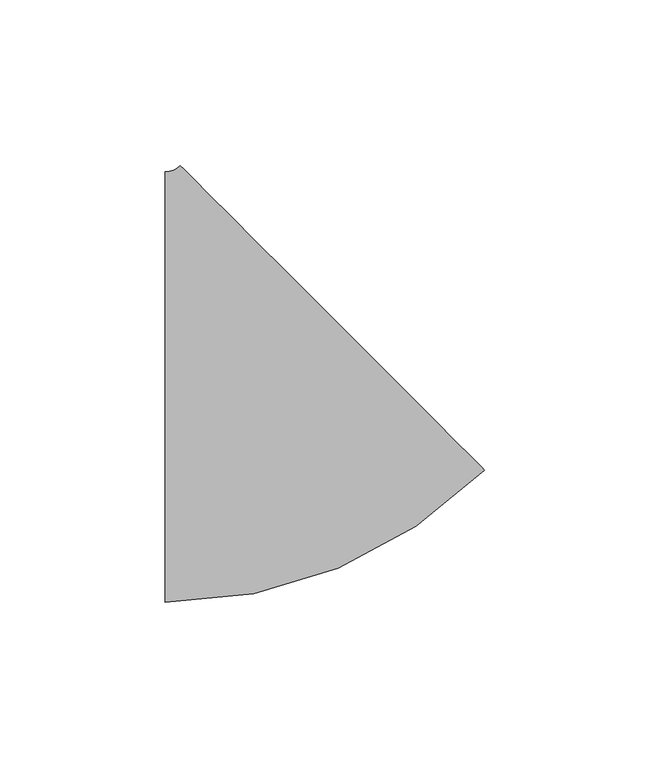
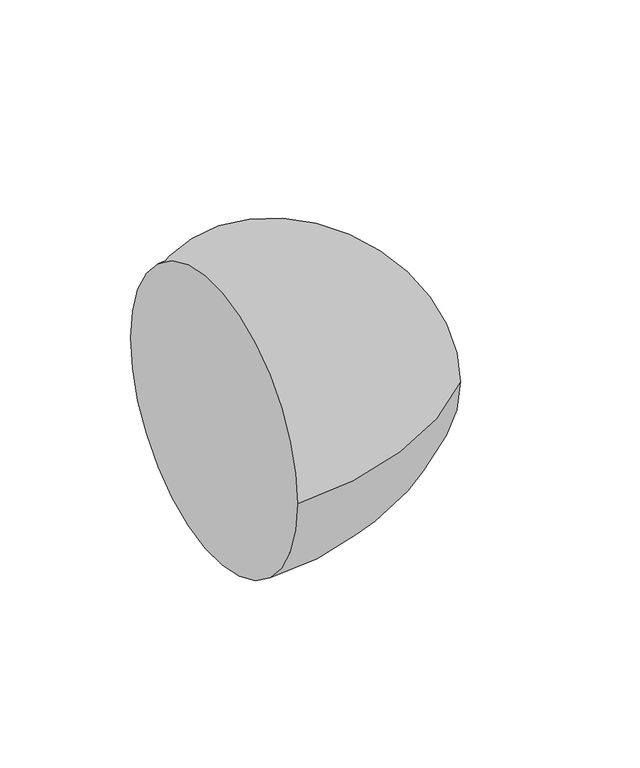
"""IFC4 building model written with IfcOpenShell, lengths in millimetres: pipe fitting geometry, M_Codo - Genérico : Estándar."""

from ifc_helpers import new_model, si_unit, point, frame, origin, place, context, project, spatial, circle_curve, ellipse_curve, trimmed, source, transform, mapped, element, save
from ifc_brep_helpers import plane_surface, revolved_surface, advanced_brep


def pipe_fitting_d5be42eb(model_context):
    return source(origin(), model_context, "Body", "AdvancedBrep", [
        advanced_brep(
        [(-29.5896926, -65.0875, 0.0), (-29.5896926, 65.0875, 0.0), (66.9464718, -25.1018421, 0.0), (-25.0996385, 66.947298, 0.0)],
        [
            (0, 1, circle_curve(frame((-29.5896926, 0.0, 0.0), z_axis=(-1.0, 0.0, 0.0), x_axis=(0.0, 1.0, 0.0)), 65.0875)),
            (1, 0, circle_curve(frame((-29.5896926, 0.0, 0.0), z_axis=(-1.0, 0.0, 0.0), x_axis=(0.0, 1.0, 0.0)), 65.0875)),
            (2, 3, circle_curve(frame((20.9234167, 20.922728, 0.0), z_axis=(0.7071184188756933, 0.7070951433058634, 0.0), x_axis=(-0.7070951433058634, 0.7071184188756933, 0.0)), 65.0875)),
            (3, 2, circle_curve(frame((20.9234167, 20.922728, 0.0), z_axis=(0.7071184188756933, 0.7070951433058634, 0.0), x_axis=(-0.7070951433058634, 0.7071184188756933, 0.0)), 65.0875)),
            (3, 1, circle_curve(frame((-29.5896926, 71.4375, 0.0), z_axis=(0.0, 0.0, -1.0), x_axis=(0.0, -1.0, 0.0)), 6.35)),
            (0, 2, circle_curve(frame((-29.5896926, 71.4375, 0.0), z_axis=(0.0, 0.0, 1.0), x_axis=(0.0, -1.0, 0.0)), 136.525)),
        ],
        [
            plane_surface(frame((-29.5896926, 0.0, 0.0), z_axis=(-1.0, 0.0, 0.0), x_axis=(0.0, 0.0, 1.0))),
            plane_surface(frame((20.9234167, 20.922728, 0.0), z_axis=(0.7071184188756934, 0.7070951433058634, 0.0), x_axis=(0.0, 0.0, 1.0))),
            revolved_surface(trimmed(ellipse_curve(frame((-29.5896926, 0.0, 0.0), z_axis=(-1.0, 0.0, 0.0), x_axis=(0.0, 1.0, 0.0)), 65.0875, 65.0875), [point((-29.5896926, -65.0875, 0.0))], [point((-29.5896926, 65.0875, 0.0))], True, "CARTESIAN"), (-29.5896926, 71.4375, 0.0), (0.0, 0.0, 1.0)),
            revolved_surface(trimmed(ellipse_curve(frame((-29.5896926, 0.0, 0.0), z_axis=(-1.0, 0.0, 0.0), x_axis=(0.0, 1.0, 0.0)), 65.0875, 65.0875), [point((-29.5896926, 65.0875, 0.0))], [point((-29.5896926, -65.0875, 0.0))], True, "CARTESIAN"), (-29.5896926, 71.4375, 0.0), (0.0, 0.0, 1.0)),
        ],
        [
            (0, [[1, 2]]),
            (1, [[3, 4]]),
            (2, [[5, -1, 6, -4]]),
            (3, [[-6, -2, -5, -3]]),
        ],
    ),
    ])


if __name__ == "__main__":
    model = new_model("IFC4")
    model_context = context("Model", 3, world=origin())
    ifc_project = project(units=[si_unit("LENGTHUNIT", "METRE", prefix="MILLI")], contexts=[model_context])
    site = spatial("IfcSite", under=ifc_project)
    building = spatial("IfcBuilding", under=site)
    placement = place(None, origin())
    pipe_fitting_shape = pipe_fitting_d5be42eb(model_context)
    element("IfcPipeFitting", 1, ObjectType="M_Codo - Genérico : Estándar", at=placement, inside=building, context=model_context, shape_type="MappedRepresentation", body=[
        mapped(pipe_fitting_shape, transform((0.0, 0.0, 0.0), x_axis=(1.0, 0.0, 0.0), y_axis=(0.0, 1.0, 0.0), z_axis=(0.0, 0.0, 1.0))),
    ])
    save(model, "model.ifc")
